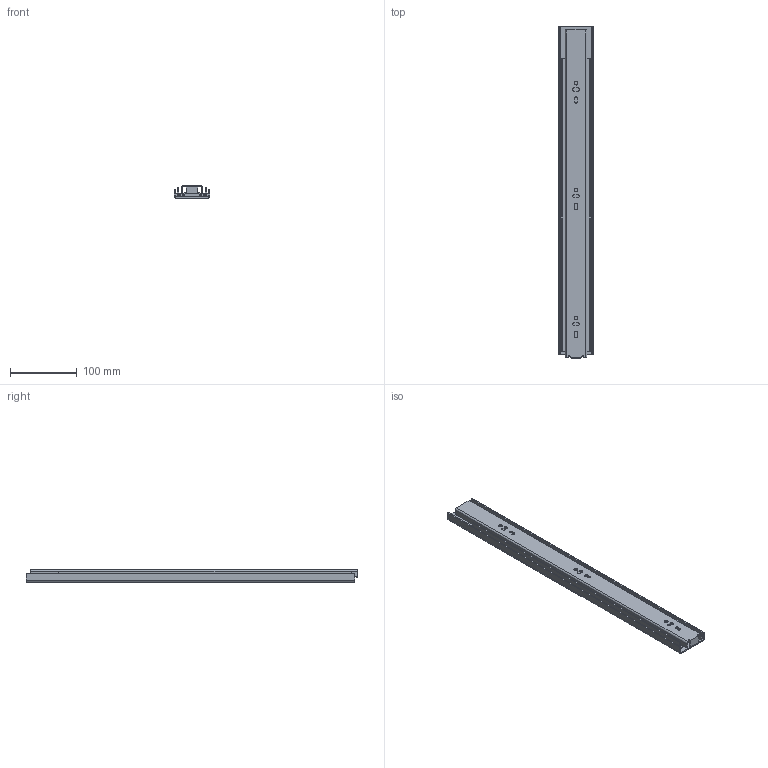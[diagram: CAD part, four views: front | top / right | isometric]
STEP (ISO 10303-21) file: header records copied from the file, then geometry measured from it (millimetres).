
FILE_DESCRIPTION((''),'2;1');
FILE_NAME('78A01_500_CLOSE_ASM','2020-09-01T15:17:50',('T170334'),(''),'CREO PARAMETRIC BY PTC INC, 2018260','CREO PARAMETRIC BY PTC INC, 2018260','');
FILE_SCHEMA(('CONFIG_CONTROL_DESIGN'));
Length unit declared in the file: millimetre
Products named in the file (5): OUT_500; MID_500; IN_500; MECHANISM_C; 78A01_500_CLOSE_ASM
Assembly tree (4 placements, depth 2):
  78A01_500_CLOSE_ASM
    OUT_500
    MID_500
    IN_500
    MECHANISM_C
Bounding box: 53.32 x 498 x 18.84 mm (x, y, z)
Volume: 177035 mm3; surface area: 188937.2 mm2
Topology: 4 solids, 4 shells, 162 faces, 458 edges, 304 vertices
Faces by surface type: cylinder 82, plane 80
Entity records: 5511 total; most frequent: CARTESIAN_POINT 973, DIRECTION 948, ORIENTED_EDGE 916, EDGE_CURVE 458, AXIS2_PLACEMENT_3D 327, VERTEX_POINT 304, VECTOR 294, LINE 294
